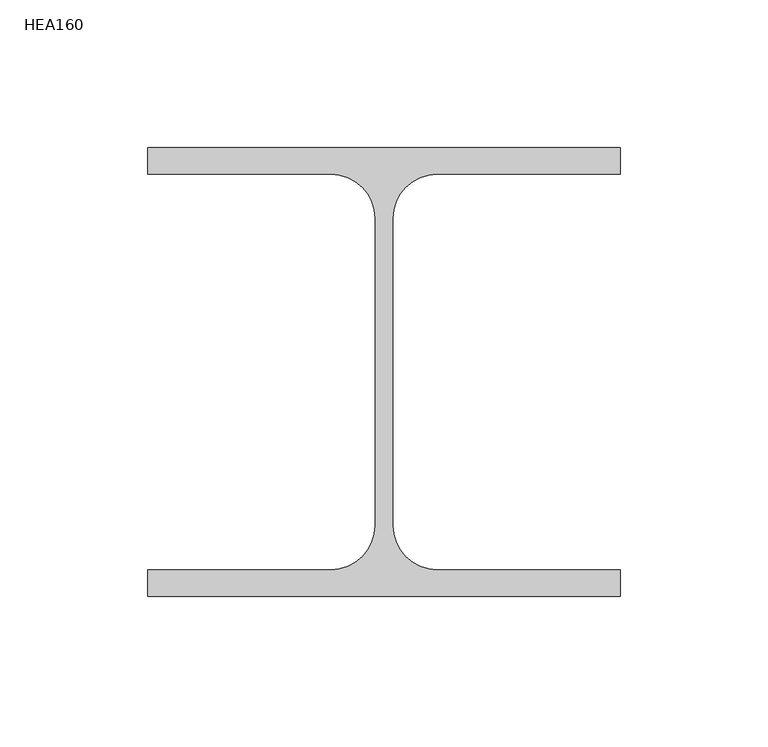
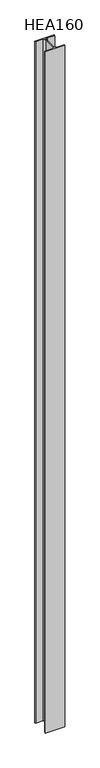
"""IFC4 building model written with IfcOpenShell, lengths in millimetres: column geometry, Poteau HE-A : HEA160."""

from ifc_helpers import new_model, si_unit, point, frame, frame_2d, origin, place, context, project, spatial, polyline, circle_curve, trimmed, segment, composite_curve, outline, extrude, source, transform, mapped, element, save


def hea160_ef068d4c(model_context):
    return source(origin(), model_context, "Body", "SweptSolid", [
        extrude(outline(composite_curve([segment(polyline([(80.0, 76.0), (80.0, 67.0), (18.0, 67.0)]), True, "CONTINUOUS"), segment(trimmed(circle_curve(frame_2d((18.0, 52.0)), 15.0), [point((18.0, 67.0))], [point((3.0, 52.0))], True, "CARTESIAN"), True, "CONTINUOUS"), segment(polyline([(3.0, 52.0), (3.0, -52.0)]), True, "CONTINUOUS"), segment(trimmed(circle_curve(frame_2d((18.0, -52.0)), 15.0), [point((3.0, -52.0))], [point((18.0, -67.0))], True, "CARTESIAN"), True, "CONTINUOUS"), segment(polyline([(18.0, -67.0), (80.0, -67.0), (80.0, -76.0), (-80.0, -76.0), (-80.0, -67.0), (-18.0, -67.0)]), True, "CONTINUOUS"), segment(trimmed(circle_curve(frame_2d((-18.0, -52.0)), 15.0), [point((-18.0, -67.0))], [point((-3.0, -52.0))], True, "CARTESIAN"), True, "CONTINUOUS"), segment(polyline([(-3.0, -52.0), (-3.0, 52.0)]), True, "CONTINUOUS"), segment(trimmed(circle_curve(frame_2d((-18.0, 52.0)), 15.0), [point((-3.0, 52.0))], [point((-18.0, 67.0))], True, "CARTESIAN"), True, "CONTINUOUS"), segment(polyline([(-18.0, 67.0), (-80.0, 67.0), (-80.0, 76.0), (80.0, 76.0)]), True, "CONTINUOUS")], self_intersect=False)), frame((0.0, 0.0, -300.0), z_axis=(0.0, 0.0, 1.0), x_axis=(1.0, 0.0, 0.0)), (0.0, 0.0, 1.0), 6000.0),
    ])


if __name__ == "__main__":
    model = new_model("IFC4")
    model_context = context("Model", 3, world=origin())
    ifc_project = project(units=[si_unit("LENGTHUNIT", "METRE", prefix="MILLI")], contexts=[model_context])
    site = spatial("IfcSite", under=ifc_project)
    building = spatial("IfcBuilding", under=site)
    placement = place(None, origin())
    hea160_shape = hea160_ef068d4c(model_context)
    element("IfcColumn", 1, ObjectType="Poteau HE-A : HEA160", at=placement, inside=building, context=model_context, shape_type="MappedRepresentation", body=[
        mapped(hea160_shape, transform((0.0, 0.0, 0.0), x_axis=(1.0, 0.0, 0.0), y_axis=(0.0, 1.0, 0.0), z_axis=(0.0, 0.0, 1.0))),
    ])
    save(model, "model.ifc")
